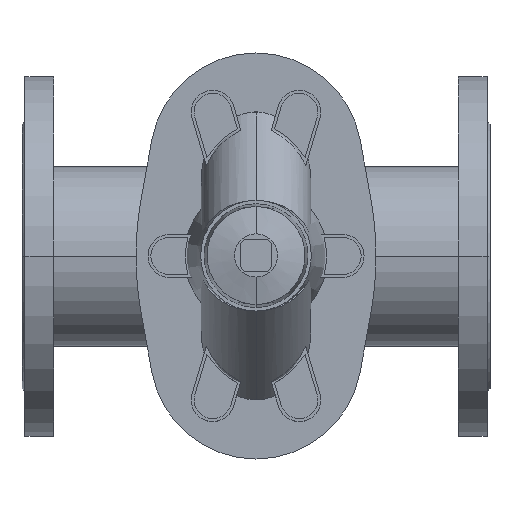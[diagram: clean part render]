
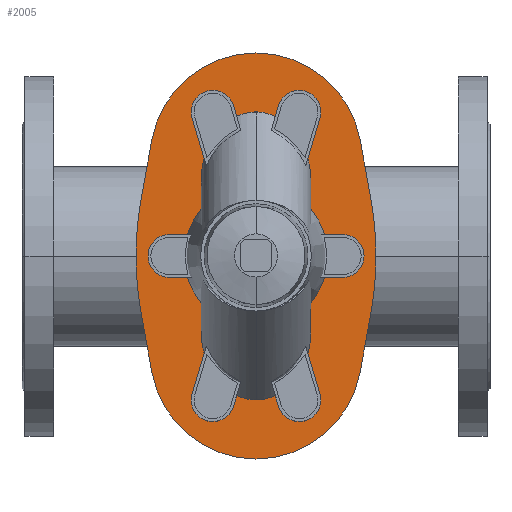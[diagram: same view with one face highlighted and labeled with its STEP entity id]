
A CAD part, top view. The second image highlights one B-rep face of the part: STEP entity #2005.
In plain terms, the highlighted planar face has unit normal (0, 0, 1).
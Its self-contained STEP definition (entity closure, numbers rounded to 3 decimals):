
#2005=ADVANCED_FACE('',(#3736),#3737,.T.);
#3736=FACE_OUTER_BOUND('',#5639,.T.);
#3737=PLANE('',#5640);
#5639=EDGE_LOOP('',(#9709,#9710,#9711,#9712,#9713,#9714,#9715,#9716,#9717,#9718,#9719,#9720,#9721,#9722));
#5640=AXIS2_PLACEMENT_3D('',#9723,#9724,#9725);
#9709=ORIENTED_EDGE('',*,*,#11529,.F.);
#9710=ORIENTED_EDGE('',*,*,#11634,.F.);
#9711=ORIENTED_EDGE('',*,*,#11268,.F.);
#9712=ORIENTED_EDGE('',*,*,#10936,.F.);
#9713=ORIENTED_EDGE('',*,*,#10298,.F.);
#9714=ORIENTED_EDGE('',*,*,#10833,.F.);
#9715=ORIENTED_EDGE('',*,*,#11204,.F.);
#9716=ORIENTED_EDGE('',*,*,#11404,.F.);
#9717=ORIENTED_EDGE('',*,*,#11615,.F.);
#9718=ORIENTED_EDGE('',*,*,#10599,.F.);
#9719=ORIENTED_EDGE('',*,*,#11476,.F.);
#9720=ORIENTED_EDGE('',*,*,#11073,.F.);
#9721=ORIENTED_EDGE('',*,*,#11572,.F.);
#9722=ORIENTED_EDGE('',*,*,#10391,.F.);
#9723=CARTESIAN_POINT('',(162.5,0.,198.0));
#9724=DIRECTION('',(0.0,0.0,1.0));
#9725=DIRECTION('',(1.0,0.0,0.0));
#10298=EDGE_CURVE('',#12205,#12207,#12208,.T.);
#10391=EDGE_CURVE('',#12356,#12357,#12358,.T.);
#10599=EDGE_CURVE('',#12698,#12701,#12702,.T.);
#10833=EDGE_CURVE('',#13063,#12205,#13065,.T.);
#10936=EDGE_CURVE('',#12207,#13208,#13211,.T.);
#11073=EDGE_CURVE('',#13398,#13401,#13402,.T.);
#11204=EDGE_CURVE('',#13574,#13063,#13575,.T.);
#11268=EDGE_CURVE('',#13208,#13658,#13659,.T.);
#11404=EDGE_CURVE('',#13815,#13574,#13816,.T.);
#11476=EDGE_CURVE('',#13401,#12698,#13900,.T.);
#11529=EDGE_CURVE('',#13958,#12356,#13959,.T.);
#11572=EDGE_CURVE('',#12357,#13398,#14006,.T.);
#11615=EDGE_CURVE('',#12701,#13815,#14049,.T.);
#11634=EDGE_CURVE('',#13658,#13958,#14068,.T.);
#12205=VERTEX_POINT('',#14773);
#12207=VERTEX_POINT('',#14776);
#12208=CIRCLE('',#14777,222.594);
#12356=VERTEX_POINT('',#14961);
#12357=VERTEX_POINT('',#14962);
#12358=LINE('',#14963,#14964);
#12698=VERTEX_POINT('',#15398);
#12701=VERTEX_POINT('',#15402);
#12702=CIRCLE('',#15403,222.594);
#13063=VERTEX_POINT('',#15870);
#13065=CIRCLE('',#15873,222.594);
#13208=VERTEX_POINT('',#16062);
#13211=CIRCLE('',#16066,222.594);
#13398=VERTEX_POINT('',#16311);
#13401=VERTEX_POINT('',#16315);
#13402=CIRCLE('',#16316,222.594);
#13574=VERTEX_POINT('',#16541);
#13575=LINE('',#16542,#16543);
#13658=VERTEX_POINT('',#16653);
#13659=CIRCLE('',#16654,222.594);
#13815=VERTEX_POINT('',#16853);
#13816=CIRCLE('',#16854,73.49);
#13900=CIRCLE('',#16957,222.594);
#13958=VERTEX_POINT('',#17030);
#13959=CIRCLE('',#17031,73.49);
#14006=CIRCLE('',#17091,222.594);
#14049=LINE('',#17140,#17141);
#14068=LINE('',#17162,#17163);
#14773=CARTESIAN_POINT('',(245.758,0.594,198.0));
#14776=CARTESIAN_POINT('',(245.757,0.,198.0));
#14777=AXIS2_PLACEMENT_3D('',#17674,#17675,#17676);
#14961=CARTESIAN_POINT('',(90.21,-80.73,198.0));
#14962=CARTESIAN_POINT('',(82.878,-40.665,198.0));
#14963=CARTESIAN_POINT('',(82.878,-40.665,198.0));
#14964=VECTOR('',#17809,1.0);
#15398=CARTESIAN_POINT('',(79.242,0.593,198.0));
#15402=CARTESIAN_POINT('',(82.878,40.665,198.0));
#15403=AXIS2_PLACEMENT_3D('',#18109,#18110,#18111);
#15870=CARTESIAN_POINT('',(242.121,40.665,198.0));
#15873=AXIS2_PLACEMENT_3D('',#18426,#18427,#18428);
#16062=CARTESIAN_POINT('',(245.758,-0.594,198.0));
#16066=AXIS2_PLACEMENT_3D('',#18560,#18561,#18562);
#16311=CARTESIAN_POINT('',(79.242,-0.593,198.0));
#16315=CARTESIAN_POINT('',(79.242,0.001,198.0));
#16316=AXIS2_PLACEMENT_3D('',#18724,#18725,#18726);
#16541=CARTESIAN_POINT('',(234.789,80.73,198.0));
#16542=CARTESIAN_POINT('',(242.121,40.665,198.0));
#16543=VECTOR('',#18888,1.0);
#16653=CARTESIAN_POINT('',(242.121,-40.665,198.0));
#16654=AXIS2_PLACEMENT_3D('',#18952,#18953,#18954);
#16853=CARTESIAN_POINT('',(90.21,80.73,198.0));
#16854=AXIS2_PLACEMENT_3D('',#19112,#19113,#19114);
#16957=AXIS2_PLACEMENT_3D('',#19182,#19183,#19184);
#17030=CARTESIAN_POINT('',(234.789,-80.73,198.0));
#17031=AXIS2_PLACEMENT_3D('',#19224,#19225,#19226);
#17091=AXIS2_PLACEMENT_3D('',#19264,#19265,#19266);
#17140=CARTESIAN_POINT('',(90.21,80.73,198.0));
#17141=VECTOR('',#19291,1.0);
#17162=CARTESIAN_POINT('',(234.789,-80.73,198.0));
#17163=VECTOR('',#19294,1.0);
#17674=CARTESIAN_POINT('',(23.164,0.594,198.0));
#17675=DIRECTION('',(0.0,0.0,-1.0));
#17676=DIRECTION('',(1.0,0.0,0.0));
#17809=DIRECTION('',(-0.18,0.984,0.0));
#18109=CARTESIAN_POINT('',(301.836,0.593,198.0));
#18110=DIRECTION('',(0.0,0.0,-1.0));
#18111=DIRECTION('',(1.0,0.0,0.0));
#18426=CARTESIAN_POINT('',(23.164,0.594,198.0));
#18427=DIRECTION('',(0.0,0.0,-1.0));
#18428=DIRECTION('',(1.0,0.0,0.0));
#18560=CARTESIAN_POINT('',(23.164,-0.594,198.0));
#18561=DIRECTION('',(0.0,0.0,-1.0));
#18562=DIRECTION('',(1.0,0.0,0.0));
#18724=CARTESIAN_POINT('',(301.836,-0.593,198.0));
#18725=DIRECTION('',(0.0,0.0,-1.0));
#18726=DIRECTION('',(1.0,0.0,0.0));
#18888=DIRECTION('',(0.18,-0.984,0.0));
#18952=CARTESIAN_POINT('',(23.164,-0.594,198.0));
#18953=DIRECTION('',(0.0,0.0,-1.0));
#18954=DIRECTION('',(1.0,0.0,0.0));
#19112=CARTESIAN_POINT('',(162.5,67.5,198.0));
#19113=DIRECTION('',(0.0,0.0,-1.0));
#19114=DIRECTION('',(1.0,0.0,0.0));
#19182=CARTESIAN_POINT('',(301.836,0.593,198.0));
#19183=DIRECTION('',(0.0,0.0,-1.0));
#19184=DIRECTION('',(1.0,0.0,0.0));
#19224=CARTESIAN_POINT('',(162.5,-67.5,198.0));
#19225=DIRECTION('',(0.0,0.0,-1.0));
#19226=DIRECTION('',(1.0,0.0,0.0));
#19264=CARTESIAN_POINT('',(301.836,-0.593,198.0));
#19265=DIRECTION('',(0.0,0.0,-1.0));
#19266=DIRECTION('',(1.0,0.0,0.0));
#19291=DIRECTION('',(0.18,0.984,0.0));
#19294=DIRECTION('',(-0.18,-0.984,-0.0));
